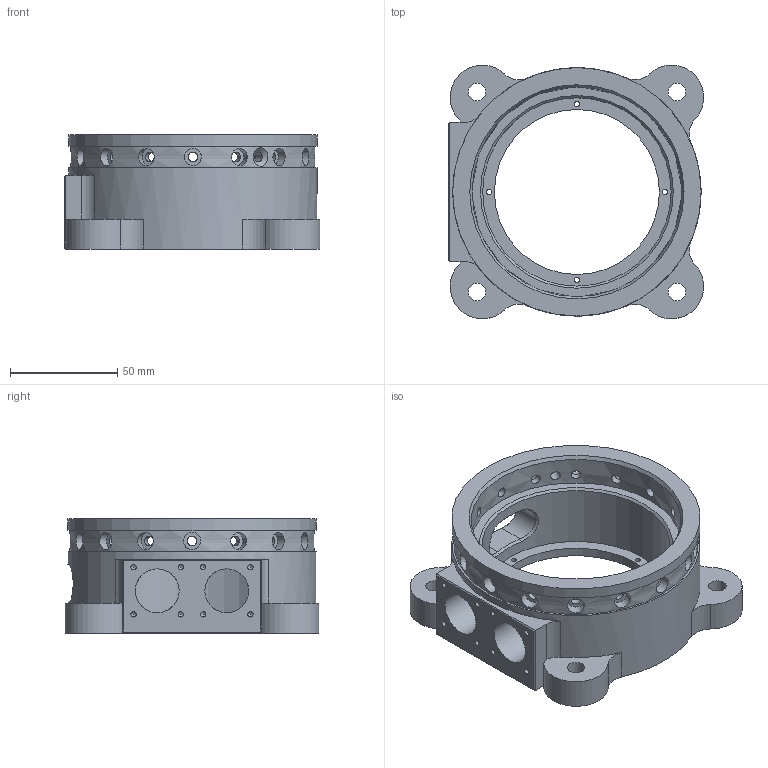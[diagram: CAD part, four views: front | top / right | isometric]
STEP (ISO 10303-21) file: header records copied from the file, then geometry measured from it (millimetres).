
FILE_DESCRIPTION (( 'STEP AP214' ), '1' );
FILE_NAME ('2-091-001 5kg菁釱.STEP', '2026-05-21T03:49:48', ( 'Windows User' ), ( 'P R C' ), 'SwSTEP 2.0', 'SolidWorks 2021', '' );
FILE_SCHEMA (( 'AUTOMOTIVE_DESIGN' ));
Length unit declared in the file: millimetre
Products named in the file (1): 2-091-001 5kg菁釱
Bounding box: 119.16 x 118.31 x 53.3 mm (x, y, z)
Volume: 230594.6 mm3; surface area: 58860.2 mm2
Topology: 1 solids, 1 shells, 138 faces, 328 edges, 211 vertices
Faces by surface type: cylinder 75, plane 39, cone 18, bspline 6
Full cylindrical faces by diameter (mm): 2.5 x12, 4.5 x18, 8 x16, 8.2 x4, 20.5 x2, 77 x1, 88 x1, 90 x1, 98 x1, 114 x1, 116 x2
Entity records: 8963 total; most frequent: CARTESIAN_POINT 5899, DIRECTION 570, ORIENTED_EDGE 464, EDGE_LOOP 294, AXIS2_PLACEMENT_3D 261, EDGE_CURVE 232, FACE_OUTER_BOUND 199, VERTEX_POINT 192
